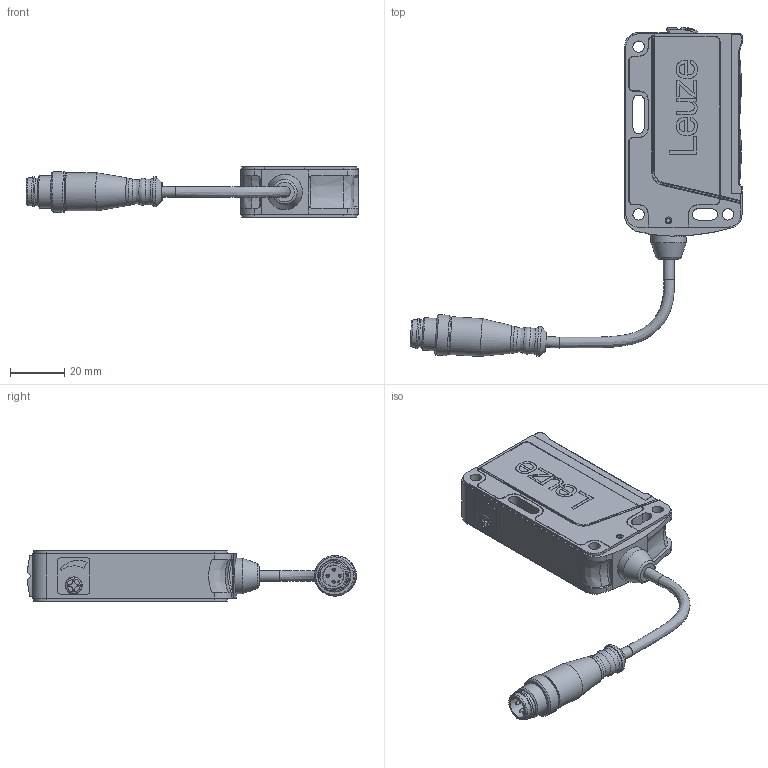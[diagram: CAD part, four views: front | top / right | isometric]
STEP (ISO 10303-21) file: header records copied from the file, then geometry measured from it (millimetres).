
FILE_DESCRIPTION((''),'2;1');
FILE_NAME('E:\temp\HRT46B_kabel.stp','2010-07-28T11:01:57',('User'),( 'SDRC'),'I-DEAS Master Series 9','UNIX','Yes');
FILE_SCHEMA(('CONFIG_CONTROL_DESIGN', 'GEOMETRIC_VALIDATION_PROPERTIES_MIM','SHAPE_APPEARANCE_LAYER_MIM'));
Length unit declared in the file: millimetre
Bounding box: 122.69 x 121.59 x 18.5 mm (x, y, z)
Volume: 61104.9 mm3; surface area: 16547.9 mm2
Topology: 1 solids, 1 shells, 448 faces, 1191 edges, 781 vertices
Faces by surface type: bspline 448
Entity records: 15877 total; most frequent: CARTESIAN_POINT 8099, ORIENTED_EDGE 2370, EDGE_CURVE 1185, VERTEX_POINT 770, B_SPLINE_CURVE_WITH_KNOTS 672, OVER_RIDING_STYLED_ITEM 660, EDGE_LOOP 489, FACE_OUTER_BOUND 448
